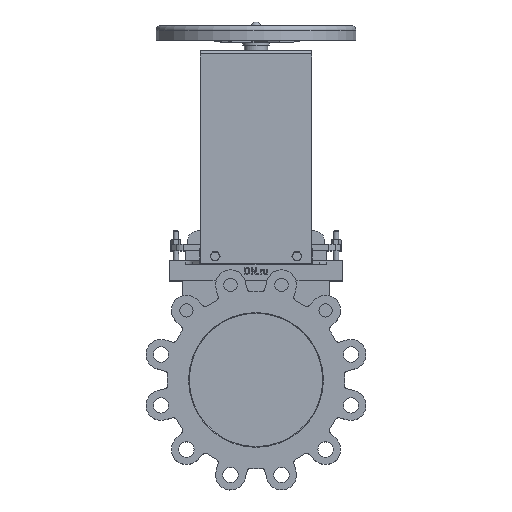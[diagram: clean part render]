
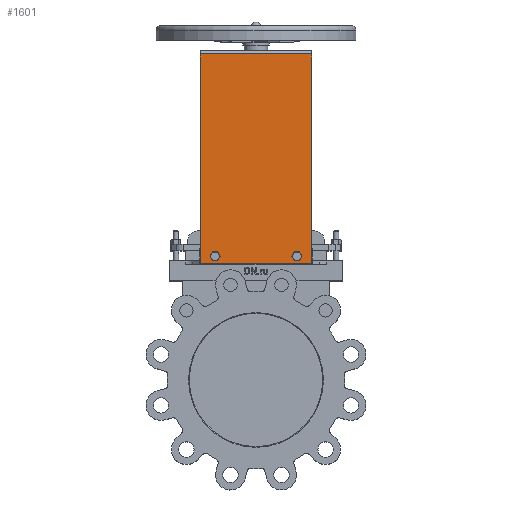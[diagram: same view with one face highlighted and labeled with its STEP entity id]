
A CAD part, top view. The second image highlights one B-rep face of the part: STEP entity #1601.
In plain terms, the highlighted planar face has unit normal (0, 0, 1).
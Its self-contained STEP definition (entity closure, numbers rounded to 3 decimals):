
#1601=ADVANCED_FACE('',(#6449,#6451,#6453),#6455,.F.);
#6449=FACE_BOUND('',#6450,.T.);
#6450=EDGE_LOOP('',(#12293,#12294,#12295,#12296));
#6451=FACE_BOUND('',#6452,.T.);
#6452=EDGE_LOOP('',(#12297));
#6453=FACE_BOUND('',#6454,.T.);
#6454=EDGE_LOOP('',(#12298));
#6455=PLANE('',#6456);
#6456=AXIS2_PLACEMENT_3D('',#6457,#6458,#6459);
#6457=CARTESIAN_POINT('',(0.,315.6,38.));
#6458=DIRECTION('',(0.,0.,-1.));
#6459=DIRECTION('',(-1.,0.,0.));
#12293=ORIENTED_EDGE('',*,*,#15237,.F.);
#12294=ORIENTED_EDGE('',*,*,#15165,.F.);
#12295=ORIENTED_EDGE('',*,*,#15185,.F.);
#12296=ORIENTED_EDGE('',*,*,#15182,.F.);
#12297=ORIENTED_EDGE('',*,*,#15238,.F.);
#12298=ORIENTED_EDGE('',*,*,#15239,.F.);
#15165=EDGE_CURVE('',#17739,#17741,#17742,.T.);
#15182=EDGE_CURVE('',#17770,#17772,#17773,.T.);
#15185=EDGE_CURVE('',#17772,#17739,#17776,.T.);
#15237=EDGE_CURVE('',#17741,#17770,#17853,.T.);
#15238=EDGE_CURVE('',#17854,#17854,#17855,.T.);
#15239=EDGE_CURVE('',#17856,#17856,#17857,.F.);
#17739=VERTEX_POINT('',#23550);
#17741=VERTEX_POINT('',#23554);
#17742=LINE('',#23555,#23556);
#17770=VERTEX_POINT('',#23620);
#17772=VERTEX_POINT('',#23625);
#17773=LINE('',#23626,#23627);
#17776=LINE('',#23635,#23636);
#17853=LINE('',#23832,#23833);
#17854=VERTEX_POINT('',#23835);
#17855=CIRCLE('',#23836,6.5);
#17856=VERTEX_POINT('',#23840);
#17857=CIRCLE('',#23841,6.5);
#23550=CARTESIAN_POINT('',(-83.914,174.343,38.));
#23554=CARTESIAN_POINT('',(-83.914,488.6,38.));
#23555=CARTESIAN_POINT('',(-83.914,174.343,38.));
#23556=VECTOR('',#23557,1.);
#23557=DIRECTION('',(0.,1.,0.));
#23620=CARTESIAN_POINT('',(83.914,488.6,38.));
#23625=CARTESIAN_POINT('',(83.914,174.343,38.));
#23626=CARTESIAN_POINT('',(83.914,488.6,38.));
#23627=VECTOR('',#23628,1.);
#23628=DIRECTION('',(0.,-1.,0.));
#23635=CARTESIAN_POINT('',(83.914,174.343,38.));
#23636=VECTOR('',#23637,1.);
#23637=DIRECTION('',(-1.,0.,0.));
#23832=CARTESIAN_POINT('',(-83.914,488.6,38.));
#23833=VECTOR('',#23834,1.);
#23834=DIRECTION('',(1.,0.,0.));
#23835=CARTESIAN_POINT('',(54.881,185.298,38.));
#23836=AXIS2_PLACEMENT_3D('',#23837,#23838,#23839);
#23837=CARTESIAN_POINT('',(61.381,185.298,38.));
#23838=DIRECTION('',(0.,0.,1.));
#23839=DIRECTION('',(-1.,0.,0.));
#23840=CARTESIAN_POINT('',(-54.881,185.298,38.));
#23841=AXIS2_PLACEMENT_3D('',#23842,#23843,#23844);
#23842=CARTESIAN_POINT('',(-61.381,185.298,38.));
#23843=DIRECTION('',(0.,0.,-1.));
#23844=DIRECTION('',(1.,0.,0.));
